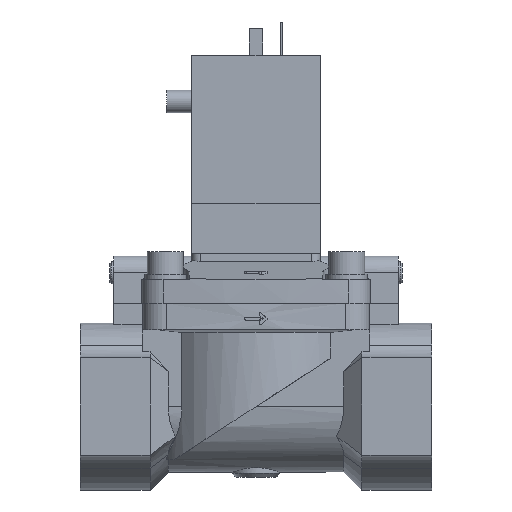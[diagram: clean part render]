
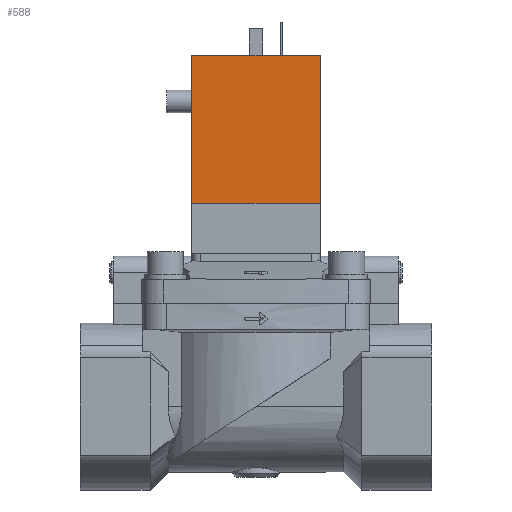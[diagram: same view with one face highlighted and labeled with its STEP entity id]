
A CAD part, top view. The second image highlights one B-rep face of the part: STEP entity #588.
In plain terms, the highlighted planar face has unit normal (0, 0, 1) as drawn and (0, 0, -1) by its records, which use the part's own axes.
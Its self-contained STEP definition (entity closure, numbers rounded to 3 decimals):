
#588 = ADVANCED_FACE( '', ( #1269 ), #1270, .F. );
#1269 = FACE_OUTER_BOUND( '', #2061, .T. );
#1270 = PLANE( '', #2062 );
#2061 = EDGE_LOOP( '', ( #3548, #3549, #3550, #3551 ) );
#2062 = AXIS2_PLACEMENT_3D( '', #3552, #3553, #3554 );
#3548 = ORIENTED_EDGE( '', *, *, #5001, .T. );
#3549 = ORIENTED_EDGE( '', *, *, #5044, .F. );
#3550 = ORIENTED_EDGE( '', *, *, #5229, .F. );
#3551 = ORIENTED_EDGE( '', *, *, #5230, .T. );
#3552 = CARTESIAN_POINT( '', ( 23., 71., -17. ) );
#3553 = DIRECTION( '', ( 0., 0., 1. ) );
#3554 = DIRECTION( '', ( 1., 0., 0. ) );
#5001 = EDGE_CURVE( '', #6111, #6115, #6117, .T. );
#5044 = EDGE_CURVE( '', #6181, #6115, #6183, .T. );
#5229 = EDGE_CURVE( '', #6453, #6181, #6454, .T. );
#5230 = EDGE_CURVE( '', #6453, #6111, #6455, .T. );
#6111 = VERTEX_POINT( '', #7655 );
#6115 = VERTEX_POINT( '', #7661 );
#6117 = LINE( '', #7664, #7665 );
#6181 = VERTEX_POINT( '', #7841 );
#6183 = LINE( '', #7844, #7845 );
#6453 = VERTEX_POINT( '', #8277 );
#6454 = LINE( '', #8278, #8279 );
#6455 = LINE( '', #8280, #8281 );
#7655 = CARTESIAN_POINT( '', ( 23., 18., -17. ) );
#7661 = CARTESIAN_POINT( '', ( -23., 18., -17. ) );
#7664 = CARTESIAN_POINT( '', ( 23., 18., -17. ) );
#7665 = VECTOR( '', #9203, 1000. );
#7841 = CARTESIAN_POINT( '', ( -23., 71., -17. ) );
#7844 = CARTESIAN_POINT( '', ( -23., 71., -17. ) );
#7845 = VECTOR( '', #9247, 1000. );
#8277 = CARTESIAN_POINT( '', ( 23., 71., -17. ) );
#8278 = CARTESIAN_POINT( '', ( 23., 71., -17. ) );
#8279 = VECTOR( '', #9455, 1000. );
#8280 = CARTESIAN_POINT( '', ( 23., 71., -17. ) );
#8281 = VECTOR( '', #9456, 1000. );
#9203 = DIRECTION( '', ( -1., 0., 0. ) );
#9247 = DIRECTION( '', ( 0., -1., 0. ) );
#9455 = DIRECTION( '', ( -1., 0., 0. ) );
#9456 = DIRECTION( '', ( 0., -1., 0. ) );
